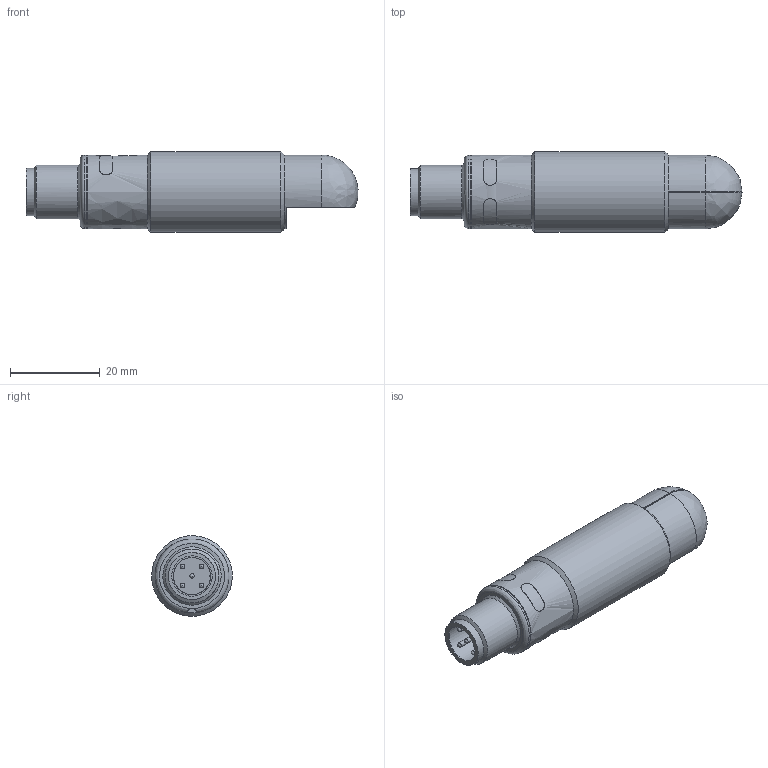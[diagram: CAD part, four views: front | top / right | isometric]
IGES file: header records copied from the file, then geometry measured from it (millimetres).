
Global section: file name: lpc+15_WK_XX; native system: Autodesk Inventor 2017; preprocessor: unknown; author: Ohle; date: 20181126.114505; units: millimetre
Bounding box: 74.08 x 18 x 18 mm (x, y, z)
Volume: 14066.8 mm3; surface area: 4365.9 mm2
Topology: 1 solids, 1 shells, 57 faces, 141 edges, 95 vertices
Faces by surface type: bspline 57
